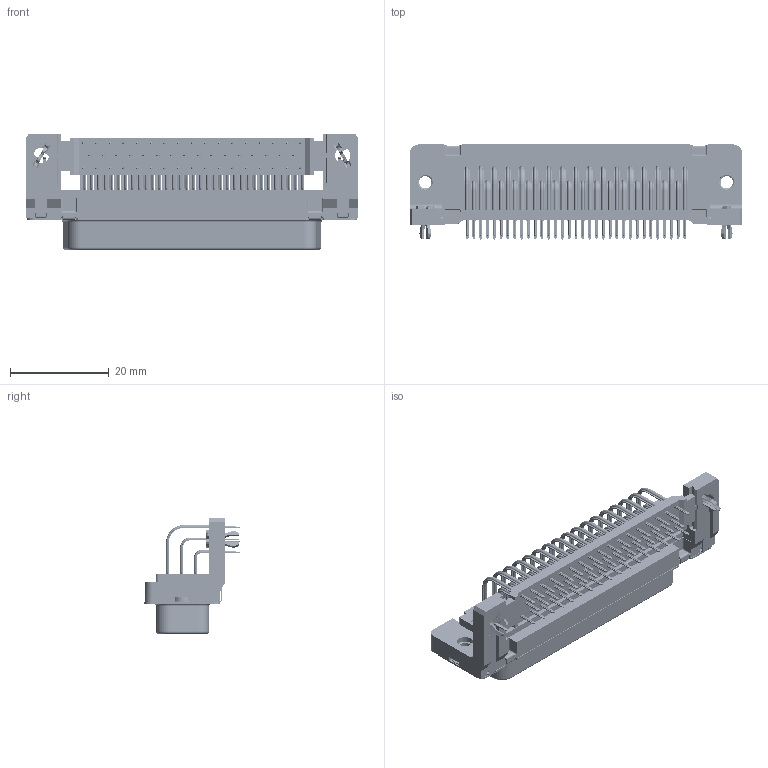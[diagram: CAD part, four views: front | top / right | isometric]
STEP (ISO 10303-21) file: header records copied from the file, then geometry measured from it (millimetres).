
FILE_DESCRIPTION(/* description */ (''),/* implementation_level */ '2;1');
FILE_NAME(/* name */ '101063412ugm000_a.stp',/* time_stamp */ '2023-04-20T08:15:10+02:00',/* author */ (''),/* organization */ (''),/* preprocessor_version */ 'ST-DEVELOPER v16.7',/* originating_system */ 'SIEMENS PLM Software NX 1911',/* authorisation */ '');
FILE_SCHEMA (('AUTOMOTIVE_DESIGN { 1 0 10303 214 3 1 1 1 }'));
Products named in the file (1): 101063412ugm000_a
Bounding box: 67.3 x 19.3 x 23.53 mm (x, y, z)
Volume: 9482.1 mm3; surface area: 12094.2 mm2
Topology: 1 solids, 14 shells, 7008 faces, 17546 edges, 10689 vertices
Faces by surface type: plane 2907, cylinder 1813, bspline 1536, torus 368, cone 218, sphere 166
Full cylindrical faces by diameter (mm): 1 x18, 1.2 x52, 1.35 x2, 2 x50, 2.5 x2, 3.12 x2, 3.2 x2, 3.71 x2, 3.9 x2
Entity records: 271581 total; most frequent: CARTESIAN_POINT 67695, ORIENTED_EDGE 34332, DIRECTION 28474, EDGE_CURVE 17166, VERTEX_POINT 10662, LINE 9912, VECTOR 9912, AXIS2_PLACEMENT_3D 9281
